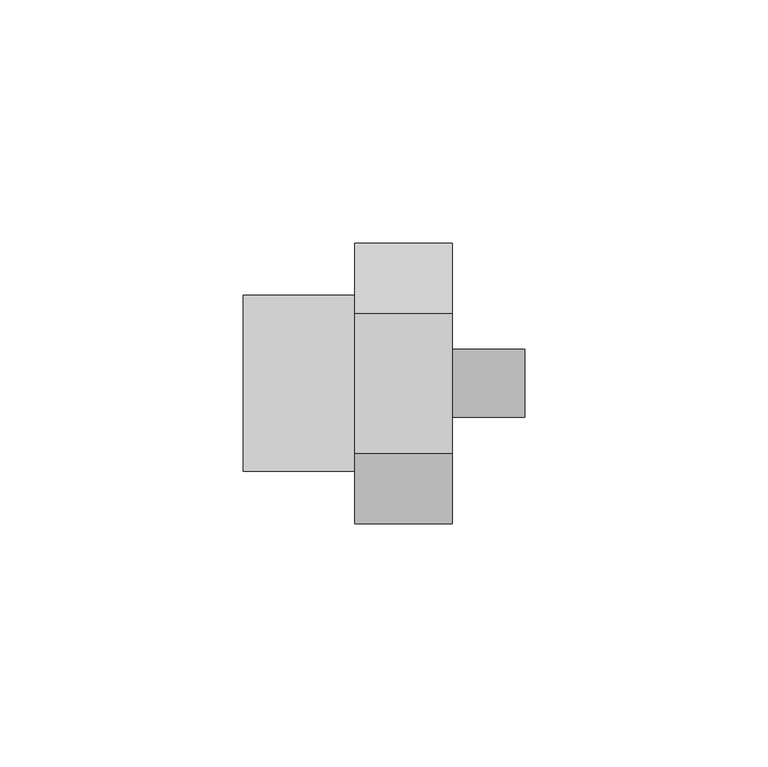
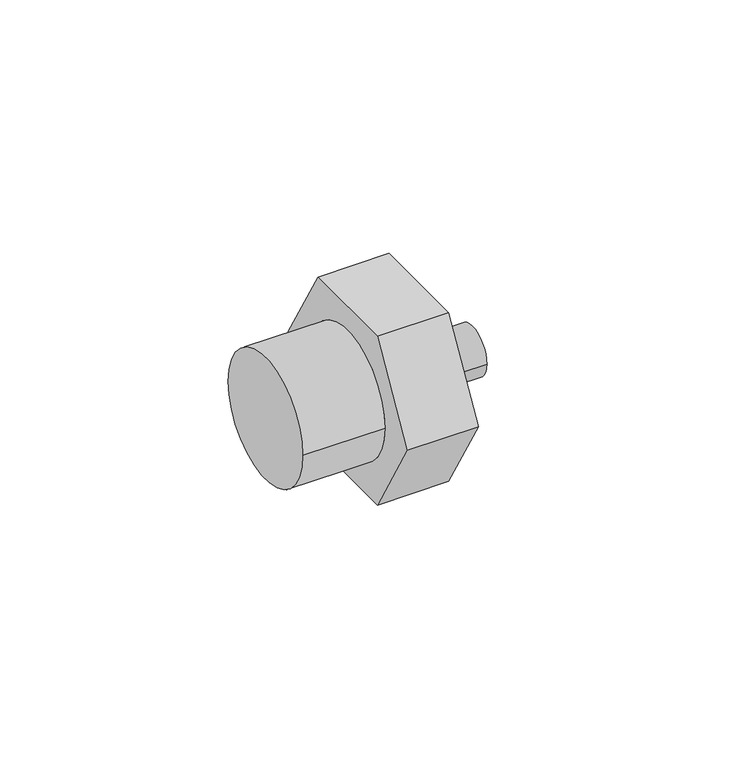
"""IFC4 building model written with IfcOpenShell, lengths in millimetres: pipe fitting geometry, 01011197 : Casquilho Duplo Redução."""

from ifc_helpers import new_model, si_unit, frame, origin, place, context, project, spatial, circle_curve, source, transform, mapped, element, save
from ifc_brep_helpers import plane_surface, cylinder_surface, advanced_brep


def pipe_fitting_fe385a2f(model_context):
    return source(origin(), model_context, "Body", "AdvancedBrep", [
        advanced_brep(
        [(43.0, -14.4337567, 25.0), (43.0, -28.8675135, 0.0), (43.0, -14.4337567, -25.0), (43.0, 14.4337567, -25.0), (43.0, 28.8675135, 0.0), (43.0, 14.4337567, 25.0), (43.0, -6.985, 0.0), (43.0, 6.985, 0.0), (23.0, -14.4337567, 25.0), (23.0, 14.4337567, 25.0), (23.0, 28.8675135, 0.0), (23.0, 14.4337567, -25.0), (23.0, -14.4337567, -25.0), (23.0, -28.8675135, 0.0), (23.0, 18.0975, 0.0), (23.0, -18.0975, 0.0), (58.0, -6.985, 0.0), (58.0, 6.985, 0.0), (0.0, 18.0975, 0.0), (0.0, -18.0975, 0.0)],
        [
            (0, 1),
            (1, 2),
            (2, 3),
            (3, 4),
            (4, 5),
            (5, 0),
            (6, 7, circle_curve(frame((43.0, 0.0, 0.0), z_axis=(-1.0, 0.0, 0.0), x_axis=(0.0, 1.0, 0.0)), 6.985)),
            (7, 6, circle_curve(frame((43.0, 0.0, 0.0), z_axis=(-1.0, 0.0, 0.0), x_axis=(0.0, 1.0, 0.0)), 6.985)),
            (8, 9),
            (9, 10),
            (10, 11),
            (11, 12),
            (12, 13),
            (13, 8),
            (14, 15, circle_curve(frame((23.0, 0.0, 0.0), z_axis=(1.0, 0.0, 0.0), x_axis=(0.0, -1.0, 0.0)), 18.0975)),
            (15, 14, circle_curve(frame((23.0, 0.0, 0.0), z_axis=(1.0, 0.0, 0.0), x_axis=(0.0, -1.0, 0.0)), 18.0975)),
            (0, 8),
            (13, 1),
            (12, 2),
            (11, 3),
            (10, 4),
            (9, 5),
            (16, 17, circle_curve(frame((58.0, 0.0, 0.0), z_axis=(1.0, 0.0, 0.0), x_axis=(0.0, 1.0, 0.0)), 6.985)),
            (17, 16, circle_curve(frame((58.0, 0.0, 0.0), z_axis=(1.0, 0.0, 0.0), x_axis=(0.0, 1.0, 0.0)), 6.985)),
            (17, 7),
            (6, 16),
            (18, 19, circle_curve(frame((0.0, 0.0, 0.0), z_axis=(-1.0, 0.0, 0.0), x_axis=(0.0, -1.0, 0.0)), 18.0975)),
            (19, 18, circle_curve(frame((0.0, 0.0, 0.0), z_axis=(-1.0, 0.0, 0.0), x_axis=(0.0, -1.0, 0.0)), 18.0975)),
            (19, 15),
            (14, 18),
        ],
        [
            plane_surface(frame((43.0, -14.4337567, 25.0), z_axis=(1.0, 0.0, 0.0), x_axis=(0.0, -0.5000000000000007, -0.8660254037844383))),
            plane_surface(frame((23.0, -14.4337567, 25.0), z_axis=(-1.0, 0.0, 0.0), x_axis=(0.0, 0.5000000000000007, 0.8660254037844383))),
            plane_surface(frame((43.0, -14.4337567, 25.0), z_axis=(0.0, -0.8660254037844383, 0.5000000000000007), x_axis=(-1.0, 0.0, 0.0))),
            plane_surface(frame((43.0, -28.8675135, 0.0), z_axis=(0.0, -0.866025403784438, -0.500000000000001), x_axis=(-1.0, 0.0, 0.0))),
            plane_surface(frame((43.0, -14.4337567, -25.0), z_axis=(0.0, 0.0, -1.0), x_axis=(-1.0, 0.0, 0.0))),
            plane_surface(frame((43.0, 14.4337567, -25.0), z_axis=(0.0, 0.8660254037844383, -0.5000000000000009), x_axis=(-1.0, 0.0, 0.0))),
            plane_surface(frame((43.0, 28.8675135, 0.0), z_axis=(0.0, 0.866025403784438, 0.500000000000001), x_axis=(-1.0, 0.0, 0.0))),
            plane_surface(frame((43.0, 14.4337567, 25.0), z_axis=(0.0, 0.0, 1.0), x_axis=(-1.0, 0.0, 0.0))),
            plane_surface(frame((58.0, 0.0, 0.0), z_axis=(1.0, 0.0, 0.0), x_axis=(0.0, 0.0, 1.0))),
            cylinder_surface(frame((43.0, 0.0, 0.0), z_axis=(-1.0, 0.0, 0.0), x_axis=(0.0, 1.0, 0.0)), 6.985),
            plane_surface(frame((0.0, 0.0, 0.0), z_axis=(-1.0, 0.0, 0.0), x_axis=(0.0, 0.0, 1.0))),
            cylinder_surface(frame((23.0, 0.0, 0.0), z_axis=(1.0, 0.0, 0.0), x_axis=(0.0, -1.0, 0.0)), 18.0975),
        ],
        [
            (0, [[1, 2, 3, 4, 5, 6], [7, 8]]),
            (1, [[9, 10, 11, 12, 13, 14], [15, 16]]),
            (2, [[-1, 17, -14, 18]]),
            (3, [[-2, -18, -13, 19]]),
            (4, [[-3, -19, -12, 20]]),
            (5, [[-4, -20, -11, 21]]),
            (6, [[-5, -21, -10, 22]]),
            (7, [[-6, -22, -9, -17]]),
            (8, [[23, 24]]),
            (9, [[-24, 25, -7, 26]]),
            (9, [[-23, -26, -8, -25]]),
            (10, [[27, 28]]),
            (11, [[-28, 29, -15, 30]]),
            (11, [[-27, -30, -16, -29]]),
        ],
    ),
    ])


if __name__ == "__main__":
    model = new_model("IFC4")
    model_context = context("Model", 3, world=origin())
    ifc_project = project(units=[si_unit("LENGTHUNIT", "METRE", prefix="MILLI")], contexts=[model_context])
    site = spatial("IfcSite", under=ifc_project)
    building = spatial("IfcBuilding", under=site)
    placement = place(None, origin())
    pipe_fitting_shape = pipe_fitting_fe385a2f(model_context)
    element("IfcPipeFitting", 1, ObjectType="01011197 : Casquilho Duplo Redução", at=placement, inside=building, context=model_context, shape_type="MappedRepresentation", body=[
        mapped(pipe_fitting_shape, transform((0.0, 0.0, 0.0), x_axis=(1.0, 0.0, 0.0), y_axis=(0.0, 1.0, 0.0), z_axis=(0.0, 0.0, 1.0))),
    ])
    save(model, "model.ifc")
